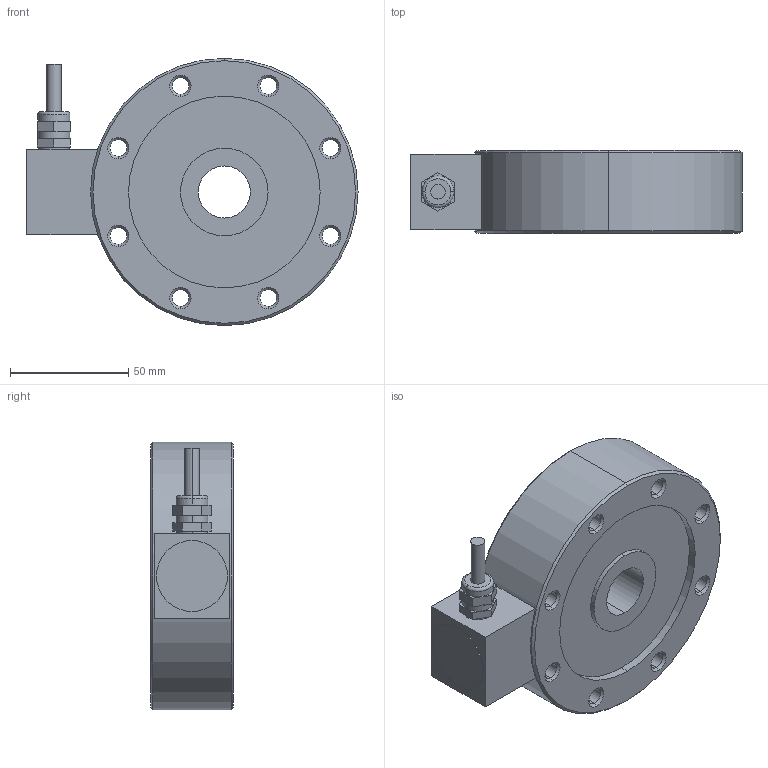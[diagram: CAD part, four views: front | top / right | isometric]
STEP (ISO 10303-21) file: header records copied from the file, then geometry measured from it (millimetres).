
FILE_DESCRIPTION (( 'STEP AP203' ), '1' );
FILE_NAME ('363YS-(1-5)t-YZ 3D耀倰.STEP', '2026-06-18T00:35:20', ( '' ), ( '' ), 'SwSTEP 2.0', 'SolidWorks 2024', '' );
FILE_SCHEMA (( 'CONFIG_CONTROL_DESIGN' ));
Length unit declared in the file: millimetre
Products named in the file (1): 363YS-(1-5)t-YZ  3D模型
Bounding box: 140.3 x 35 x 113 mm (x, y, z)
Volume: 331248.6 mm3; surface area: 46269 mm2
Topology: 1 solids, 1 shells, 106 faces, 238 edges, 146 vertices
Faces by surface type: cylinder 38, cone 36, plane 30, torus 2
Entity records: 3069 total; most frequent: DIRECTION 570, CARTESIAN_POINT 491, ORIENTED_EDGE 476, EDGE_CURVE 238, AXIS2_PLACEMENT_3D 225, VERTEX_POINT 146, EDGE_LOOP 136, VECTOR 120
